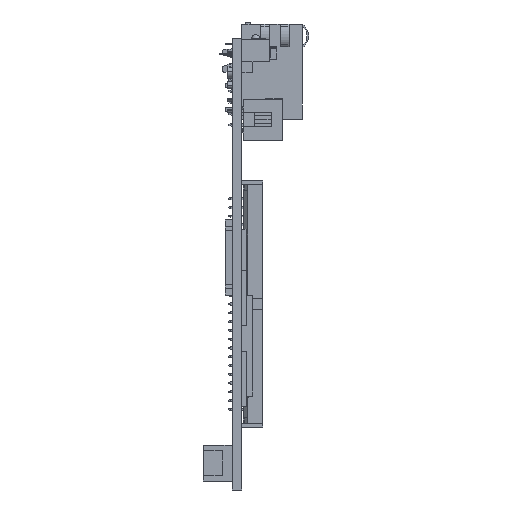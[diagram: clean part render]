
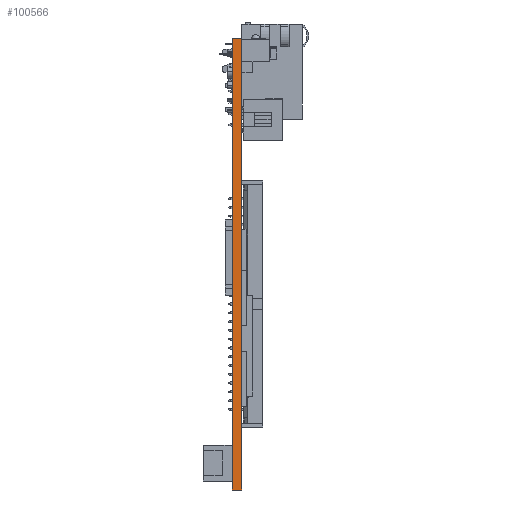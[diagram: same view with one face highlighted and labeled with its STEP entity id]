
A CAD part, front view. The second image highlights one B-rep face of the part: STEP entity #100566.
In plain terms, the highlighted planar face has unit normal (0, -1, 0).
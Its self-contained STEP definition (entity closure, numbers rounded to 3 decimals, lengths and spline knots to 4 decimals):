
#5=DIRECTION('',(0.,0.,-1.));
#6=VECTOR('',#5,4.05);
#7=CARTESIAN_POINT('',(0.,-0.1262,3.8738));
#8=LINE('',#7,#6);
#4111=DIRECTION('',(0.,0.,-1.));
#4112=VECTOR('',#4111,4.05);
#4113=CARTESIAN_POINT('',(0.085,-0.1262,3.8738));
#4114=LINE('',#4113,#4112);
#7314=DIRECTION('',(1.,0.,0.));
#7315=VECTOR('',#7314,0.085);
#7316=CARTESIAN_POINT('',(0.,-0.1262,-0.1762));
#7317=LINE('',#7316,#7315);
#7318=DIRECTION('',(1.,0.,0.));
#7319=VECTOR('',#7318,0.085);
#7320=CARTESIAN_POINT('',(0.,-0.1262,3.8738));
#7321=LINE('',#7320,#7319);
#72784=CARTESIAN_POINT('',(0.,-0.1262,3.8738));
#72786=VERTEX_POINT('',#72784);
#72787=CARTESIAN_POINT('',(0.,-0.1262,-0.1762));
#72788=VERTEX_POINT('',#72787);
#72791=CARTESIAN_POINT('',(0.085,-0.1262,3.8738));
#72792=CARTESIAN_POINT('',(0.085,-0.1262,-0.1762));
#72793=VERTEX_POINT('',#72791);
#72794=VERTEX_POINT('',#72792);
#100555=CARTESIAN_POINT('',(0.,-0.1262,3.8738));
#100556=DIRECTION('',(0.,-1.,0.));
#100557=DIRECTION('',(0.,0.,-1.));
#100558=AXIS2_PLACEMENT_3D('',#100555,#100556,#100557);
#100559=PLANE('',#100558);
#100560=ORIENTED_EDGE('',*,*,#95241,.F.);
#100561=ORIENTED_EDGE('',*,*,#97656,.T.);
#100562=ORIENTED_EDGE('',*,*,#97815,.T.);
#100563=ORIENTED_EDGE('',*,*,#100548,.F.);
#100564=EDGE_LOOP('',(#100560,#100561,#100562,#100563));
#100565=FACE_OUTER_BOUND('',#100564,.F.);
#100566=ADVANCED_FACE('',(#100565),#100559,.T.);
#95241=EDGE_CURVE('',#72786,#72788,#8,.T.);
#97656=EDGE_CURVE('',#72786,#72793,#7321,.T.);
#97815=EDGE_CURVE('',#72793,#72794,#4114,.T.);
#100548=EDGE_CURVE('',#72788,#72794,#7317,.T.);
